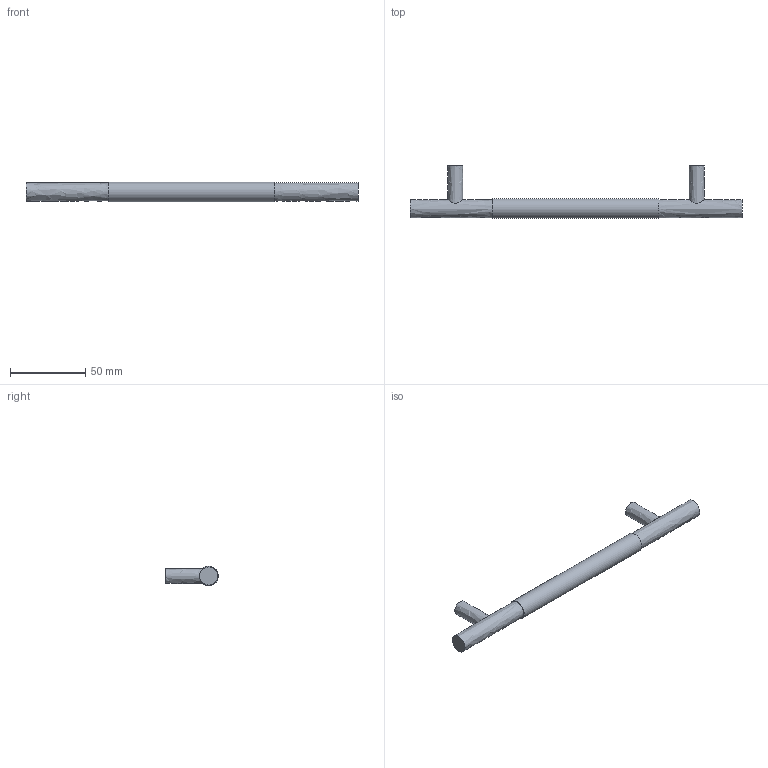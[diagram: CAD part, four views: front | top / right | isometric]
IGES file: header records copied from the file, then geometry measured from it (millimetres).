
Start section: Data from Parasolid IGES Translator 15.0.47, Copyright(c) 2006 Siemens P LM Software. All Rights Reserved.
Global section: file name: 9070147.igs; native system:  By UGS Corp.; preprocessor: XPlus GENERIC/IGES 3.0; author: Noname; organization: Noname; date: 20140122.104504; units: millimetre
Bounding box: 220 x 35 x 13 mm (x, y, z)
Surface area: 10603.2 mm2 (no closed solid volume)
Topology: 0 solids, 0 shells, 15 faces, 42 edges, 28 vertices
Faces by surface type: extrusion 8, revolution 7
